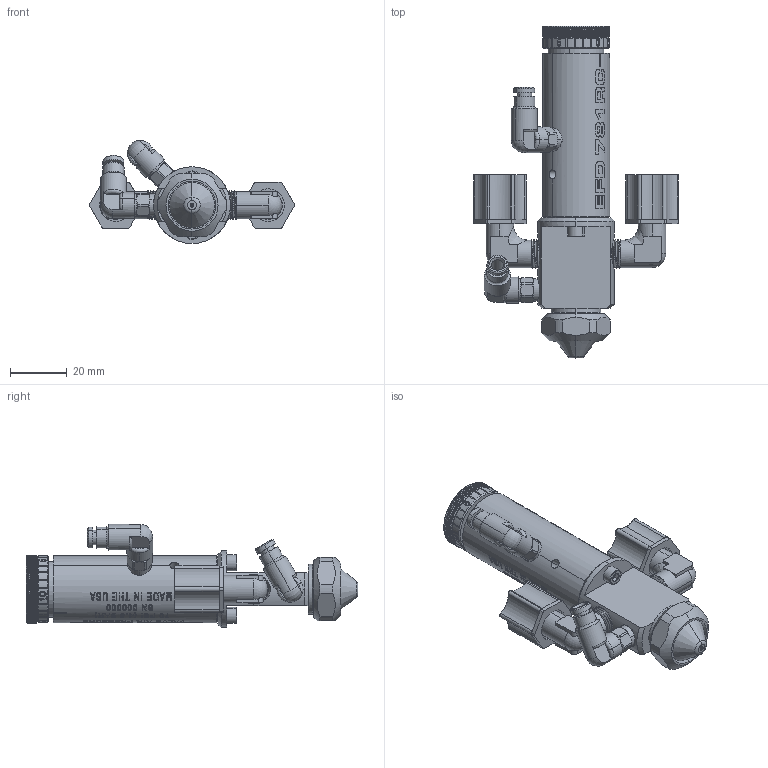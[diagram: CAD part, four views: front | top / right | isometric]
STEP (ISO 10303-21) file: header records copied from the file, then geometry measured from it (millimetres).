
FILE_DESCRIPTION(('FreeCAD Model'),'2;1');
FILE_NAME('/Users/martinstroffek/Desktop/NordsonEFD_781RC-SS.step', '2021-06-15T11:17:11',('Author'),(''), 'Open CASCADE STEP processor 7.3','FreeCAD','Unknown');
FILE_SCHEMA(('AUTOMOTIVE_DESIGN { 1 0 10303 214 1 1 1 1 }'));
Length unit declared in the file: millimetre
Products named in the file (1): NORDSONEFD-781RC-SS_SPRAY_VALVE_028
Bounding box: 71.94 x 116.48 x 36.16 mm (x, y, z)
Volume: 47598.4 mm3; surface area: 30191.2 mm2
Topology: 1 solids, 1 shells, 2295 faces, 6159 edges, 4015 vertices
Faces by surface type: plane 944, cylinder 630, bspline 435, cone 180, torus 90, sphere 12, revolution 4
Entity records: 282278 total; most frequent: CARTESIAN_POINT 157477, DIRECTION 15960, ORIENTED_EDGE 12290, PCURVE 12290, DEFINITIONAL_REPRESENTATION 12290, LINE 8842, VECTOR 8842, B_SPLINE_CURVE_WITH_KNOTS 6668
